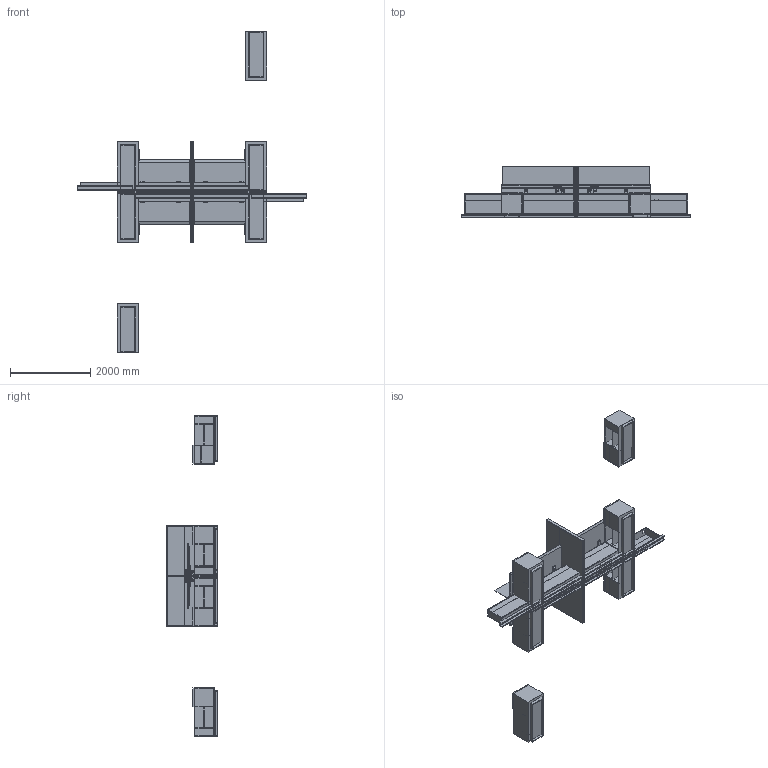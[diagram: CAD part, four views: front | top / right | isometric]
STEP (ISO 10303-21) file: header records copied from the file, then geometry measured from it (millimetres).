
FILE_DESCRIPTION(/* description */ ('','CAx-IF Rec.Pracs.---Representation and Presentation of Product Manufacturing Information (PMI)---4.0---2014-10-13'),/* implementation_level */ '2;1');
FILE_NAME(/* name */ 'WORKSTATION_ELEVATE 2.stp',/* time_stamp */ '2024-12-08T10:00:18-05:00',/* author */ ('mbowman'),/* organization */ (''),/* preprocessor_version */ 'ST-DEVELOPER v19.2',/* originating_system */ 'Autodesk Inventor 2023',/* authorisation */ '');
FILE_SCHEMA (('AP242_MANAGED_MODEL_BASED_3D_ENGINEERING_MIM_LF { 1 0 10303 442 1 1 4 }'));
Products named in the file (22): ELEVATIO^ADMIN_4 SEAT-QUAD W GLASS DIVIDER; ELEVATE^ADMIN_QUAD CREDENZA-SHELF BAY LEFT; ELEVATE^ADMIN_QUAD CREDENZA-SHELF BAY LEFT_1; ELEVATE^ADMIN_QUAD CREDENZA-SHELF BAY RIGHT; ELEVATE^ADMIN_QUAD CREDENZA-SHELF BAY RIGHT_1; JW PULL-11_125^STANDARD; ELEVATE^ADMIN_72x50 DIVIDER WALL-GLASS DIVIDER; ELEVATE^ADMIN_99x55 DIVIDER WALL-TACK 2 SIDES; ELEVATE^ADMIN_51x23x8 SINGLE WIRE WALL-BASE TAIL LEFT; ELEVATE^ADMIN_51x23x8 SINGLE WIRE WALL-BASE TAIL LEFT_1; ELEVATE^ADMIN_28.5x70-RECT WORKSURFACE BEVEL FRT LT; ELEVATE^ADMIN_51x23x8 SINGLE WIRE WALL-BASE TAIL RIGHT; ELEVATE^ADMIN_51x23x8 SINGLE WIRE WALL-BASE TAIL RIGHT_1; dl5nc_without_bracket_STEP; DL5NC_OP; STANDART_MOTORHUS1_DL5; ELEVATE^ADMIN_28.5x70-RECT WORKSURFACE BEVEL FRT RT; ASHLEY LINK30 DESK POWER SUPPLY ASSY; ASHLEY LINK 30 DESK POWER UNIT; DESK POWER UNIT BRKT; ASHLEY LINK 60 DESK POWER UNIT MTG PLATE; DESK POWER UNIT BRKT BOLTS
Assembly tree (34 placements, depth 4):
  ELEVATIO^ADMIN_4 SEAT-QUAD W GLASS DIVIDER
    ELEVATE^ADMIN_QUAD CREDENZA-SHELF BAY LEFT  x2
      JW PULL-11_125^STANDARD
      ELEVATE^ADMIN_QUAD CREDENZA-SHELF BAY LEFT_1
    ELEVATE^ADMIN_QUAD CREDENZA-SHELF BAY RIGHT  x2
      ELEVATE^ADMIN_QUAD CREDENZA-SHELF BAY RIGHT_1
      JW PULL-11_125^STANDARD
    ELEVATE^ADMIN_72x50 DIVIDER WALL-GLASS DIVIDER  x2
    ELEVATE^ADMIN_99x55 DIVIDER WALL-TACK 2 SIDES
    ELEVATE^ADMIN_51x23x8 SINGLE WIRE WALL-BASE TAIL LEFT  x2
      ELEVATE^ADMIN_51x23x8 SINGLE WIRE WALL-BASE TAIL LEFT_1
      ELEVATE^ADMIN_28.5x70-RECT WORKSURFACE BEVEL FRT LT
      dl5nc_without_bracket_STEP
        DL5NC_OP
        STANDART_MOTORHUS1_DL5
      ASHLEY LINK30 DESK POWER SUPPLY ASSY
        ASHLEY LINK 30 DESK POWER UNIT
        DESK POWER UNIT BRKT BOLTS  x2
        DESK POWER UNIT BRKT
        ASHLEY LINK 60 DESK POWER UNIT MTG PLATE
    ELEVATE^ADMIN_51x23x8 SINGLE WIRE WALL-BASE TAIL RIGHT  x2
      ELEVATE^ADMIN_51x23x8 SINGLE WIRE WALL-BASE TAIL RIGHT_1
      dl5nc_without_bracket_STEP
        DL5NC_OP
        STANDART_MOTORHUS1_DL5
      ELEVATE^ADMIN_28.5x70-RECT WORKSURFACE BEVEL FRT RT
      ASHLEY LINK30 DESK POWER SUPPLY ASSY
        ASHLEY LINK 30 DESK POWER UNIT
        DESK POWER UNIT BRKT BOLTS  x2
        DESK POWER UNIT BRKT
        ASHLEY LINK 60 DESK POWER UNIT MTG PLATE
Bounding box: 5715 x 1270 x 8001 mm (x, y, z)
Volume: 1389515297.5 mm3; surface area: 135543787.8 mm2
Topology: 228 solids, 388 shells, 11704 faces, 29696 edges, 18932 vertices
Faces by surface type: plane 6872, cylinder 3940, torus 380, bspline 304, cone 104, sphere 104
Full cylindrical faces by diameter (mm): 4.6 x16, 4.978 x8, 5 x200, 5.3 x48, 5.5 x16, 6.35 x16, 8 x16, 8.202 x160, 8.636 x16, 9.525 x16, 17.272 x8, 25.4 x8, 28.575 x4
Entity records: 74278 total; most frequent: CARTESIAN_POINT 17088, DIRECTION 11386, ORIENTED_EDGE 10674, EDGE_CURVE 5337, AXIS2_PLACEMENT_3D 3814, LINE 3758, VECTOR 3758, VERTEX_POINT 3458
